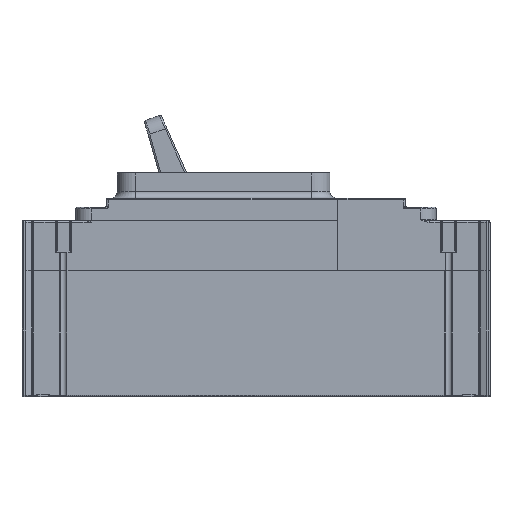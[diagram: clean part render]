
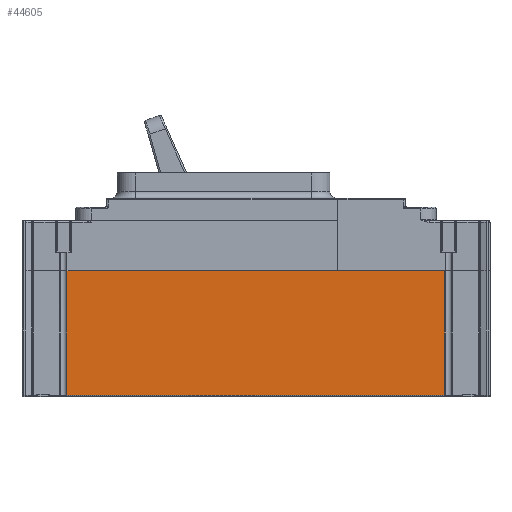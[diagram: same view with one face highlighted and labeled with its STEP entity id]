
A CAD part, top view. The second image highlights one B-rep face of the part: STEP entity #44605.
In plain terms, the highlighted planar face has unit normal (0, 0, 1).
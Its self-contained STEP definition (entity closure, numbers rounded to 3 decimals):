
#13300=DIRECTION('',(0.,1.,0.));
#13301=VECTOR('',#13300,69.);
#13302=CARTESIAN_POINT('',(105.,-69.,70.));
#13303=LINE('',#13302,#13301);
#13308=DIRECTION('',(1.,0.,0.));
#13309=VECTOR('',#13308,210.);
#13310=CARTESIAN_POINT('',(-105.,0.,70.));
#13311=LINE('',#13310,#13309);
#13316=DIRECTION('',(1.,0.,0.));
#13317=VECTOR('',#13316,210.);
#13318=CARTESIAN_POINT('',(-105.,-69.,70.));
#13319=LINE('',#13318,#13317);
#13339=DIRECTION('',(0.,-1.,0.));
#13340=VECTOR('',#13339,69.);
#13341=CARTESIAN_POINT('',(-105.,0.,70.));
#13342=LINE('',#13341,#13340);
#16207=CARTESIAN_POINT('',(-105.,-69.,70.));
#16208=CARTESIAN_POINT('',(105.,-69.,70.));
#16209=VERTEX_POINT('',#16207);
#16210=VERTEX_POINT('',#16208);
#16211=CARTESIAN_POINT('',(-105.,0.,70.));
#16212=VERTEX_POINT('',#16211);
#16213=CARTESIAN_POINT('',(105.,0.,70.));
#16214=VERTEX_POINT('',#16213);
#44592=CARTESIAN_POINT('',(0.,0.,70.));
#44593=DIRECTION('',(0.,0.,1.));
#44594=DIRECTION('',(1.,0.,0.));
#44595=AXIS2_PLACEMENT_3D('',#44592,#44593,#44594);
#44596=PLANE('',#44595);
#44598=ORIENTED_EDGE('',*,*,#44597,.F.);
#44600=ORIENTED_EDGE('',*,*,#44599,.F.);
#44601=ORIENTED_EDGE('',*,*,#21503,.T.);
#44602=ORIENTED_EDGE('',*,*,#44585,.F.);
#44603=EDGE_LOOP('',(#44598,#44600,#44601,#44602));
#44604=FACE_OUTER_BOUND('',#44603,.F.);
#44605=ADVANCED_FACE('',(#44604),#44596,.T.);
#21503=EDGE_CURVE('',#16212,#16214,#13311,.T.);
#44585=EDGE_CURVE('',#16210,#16214,#13303,.T.);
#44597=EDGE_CURVE('',#16209,#16210,#13319,.T.);
#44599=EDGE_CURVE('',#16212,#16209,#13342,.T.);
